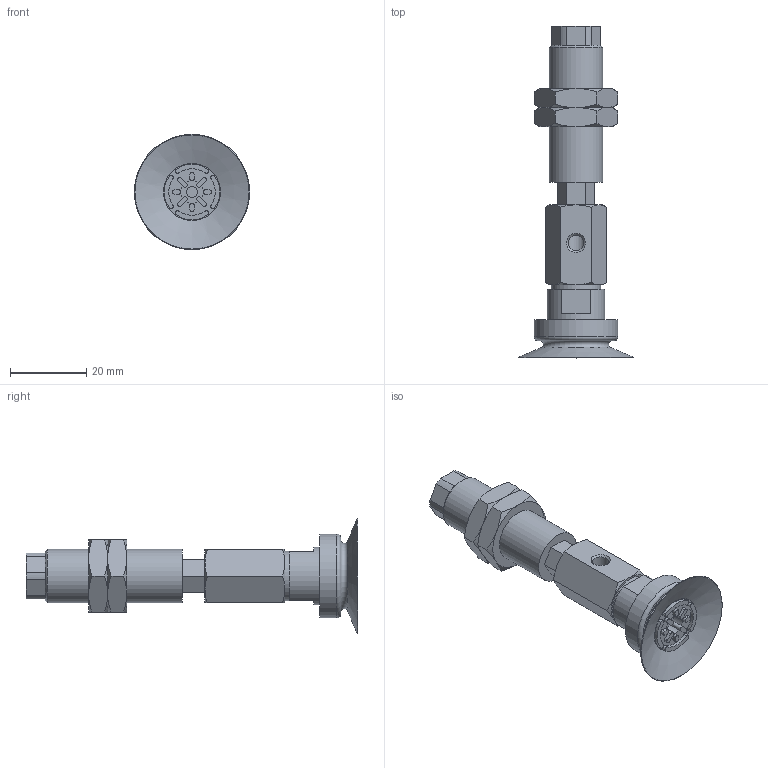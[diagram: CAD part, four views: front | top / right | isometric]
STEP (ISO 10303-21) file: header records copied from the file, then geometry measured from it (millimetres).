
FILE_DESCRIPTION(('STEP AP203'),'1');
FILE_NAME('.stp','2025-03-13T08:01:47',(' '),(' '),'Spatial InterOp 3D',' ',' ');
FILE_SCHEMA(('CONFIG_CONTROL_DESIGN'));
Length unit declared in the file: millimetre
Products named in the file (6): BNABPAYH-30-6-※; CONNECTOR-30-6-PA; Nut-25-S; NAPAYH-30-6--F; NAPAYH-30-6--M; BPAG-30-※
Assembly tree (6 placements, depth 2):
  BNABPAYH-30-6-※
    CONNECTOR-30-6-PA
    Nut-25-S  x2
    NAPAYH-30-6--F
    NAPAYH-30-6--M
    BPAG-30-※
Bounding box: 30.3 x 87.2 x 30.3 mm (x, y, z)
Volume: 15393.3 mm3; surface area: 11461.2 mm2
Topology: 6 solids, 6 shells, 208 faces, 484 edges, 305 vertices
Faces by surface type: plane 99, cylinder 56, cone 51, torus 2
Full cylindrical faces by diameter (mm): 3 x2, 4.134 x2, 4.6 x1, 4.917 x1, 5 x1, 6 x1, 12.917 x2, 13 x1, 14 x1, 15 x1, 22 x1
Entity records: 5768 total; most frequent: CARTESIAN_POINT 1267, DIRECTION 900, ORIENTED_EDGE 814, EDGE_CURVE 407, AXIS2_PLACEMENT_3D 352, VERTEX_POINT 275, EDGE_LOOP 238, FACE_OUTER_BOUND 200
